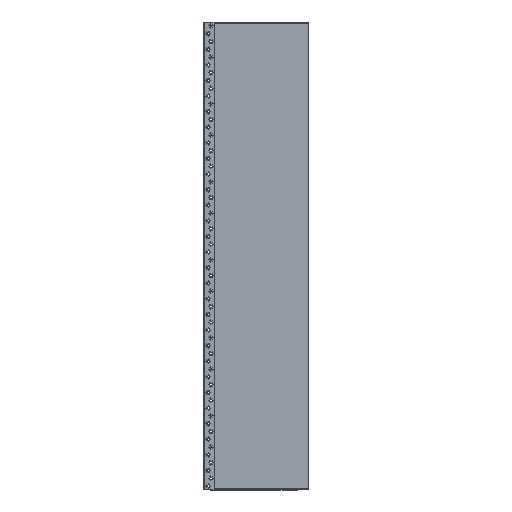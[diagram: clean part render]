
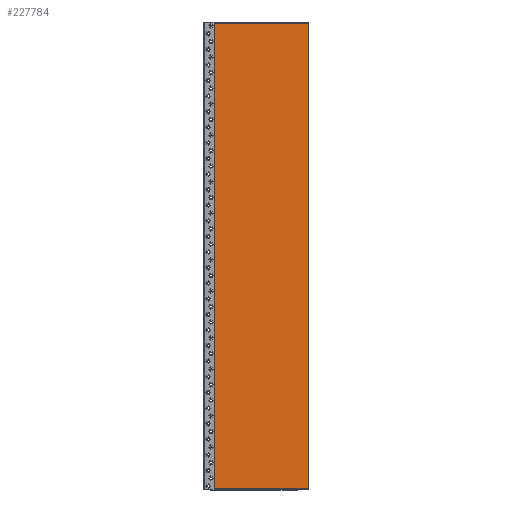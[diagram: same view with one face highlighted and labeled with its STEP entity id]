
A CAD part, top view. The second image highlights one B-rep face of the part: STEP entity #227784.
In plain terms, the highlighted planar face has unit normal (0, 0, 1).
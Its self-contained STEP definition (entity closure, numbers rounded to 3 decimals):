
#227470 = VERTEX_POINT('',#227471);
#227471 = CARTESIAN_POINT('',(10756.924,3003.,
    0.));
#227478 = PLANE('',#227479);
#227479 = AXIS2_PLACEMENT_3D('',#227480,#227481,#227482);
#227480 = CARTESIAN_POINT('',(10756.924,3003.,
    -25.));
#227481 = DIRECTION('',(0.,1.,0.));
#227482 = DIRECTION('',(1.,0.,0.));
#227490 = PLANE('',#227491);
#227491 = AXIS2_PLACEMENT_3D('',#227492,#227493,#227494);
#227492 = CARTESIAN_POINT('',(10756.924,4197.,
    -25.));
#227493 = DIRECTION('',(1.,0.,0.));
#227494 = DIRECTION('',(0.,-1.,0.));
#227502 = EDGE_CURVE('',#227470,#227503,#227505,.T.);
#227503 = VERTEX_POINT('',#227504);
#227504 = CARTESIAN_POINT('',(10998.424,3003.,
    0.));
#227505 = SURFACE_CURVE('',#227506,(#227510,#227517),.PCURVE_S1.);
#227506 = LINE('',#227507,#227508);
#227507 = CARTESIAN_POINT('',(10756.924,3003.,
    0.));
#227508 = VECTOR('',#227509,1.);
#227509 = DIRECTION('',(1.,0.,0.));
#227510 = PCURVE('',#227478,#227511);
#227511 = DEFINITIONAL_REPRESENTATION('',(#227512),#227516);
#227512 = LINE('',#227513,#227514);
#227513 = CARTESIAN_POINT('',(0.,-25.));
#227514 = VECTOR('',#227515,1.);
#227515 = DIRECTION('',(1.,0.));
#227516 = ( GEOMETRIC_REPRESENTATION_CONTEXT(2) 
PARAMETRIC_REPRESENTATION_CONTEXT() REPRESENTATION_CONTEXT('2D SPACE',''
  ) );
#227517 = PCURVE('',#227518,#227523);
#227518 = PLANE('',#227519);
#227519 = AXIS2_PLACEMENT_3D('',#227520,#227521,#227522);
#227520 = CARTESIAN_POINT('',(10877.674,3600.,
    0.));
#227521 = DIRECTION('',(0.,0.,1.));
#227522 = DIRECTION('',(1.,0.,0.));
#227523 = DEFINITIONAL_REPRESENTATION('',(#227524),#227528);
#227524 = LINE('',#227525,#227526);
#227525 = CARTESIAN_POINT('',(-120.75,-597.));
#227526 = VECTOR('',#227527,1.);
#227527 = DIRECTION('',(1.,0.));
#227528 = ( GEOMETRIC_REPRESENTATION_CONTEXT(2) 
PARAMETRIC_REPRESENTATION_CONTEXT() REPRESENTATION_CONTEXT('2D SPACE',''
  ) );
#227546 = PLANE('',#227547);
#227547 = AXIS2_PLACEMENT_3D('',#227548,#227549,#227550);
#227548 = CARTESIAN_POINT('',(10998.424,3003.,
    -25.));
#227549 = DIRECTION('',(-1.,0.,0.));
#227550 = DIRECTION('',(0.,1.,0.));
#227588 = EDGE_CURVE('',#227503,#227589,#227591,.T.);
#227589 = VERTEX_POINT('',#227590);
#227590 = CARTESIAN_POINT('',(10998.424,4197.,
    0.));
#227591 = SURFACE_CURVE('',#227592,(#227596,#227603),.PCURVE_S1.);
#227592 = LINE('',#227593,#227594);
#227593 = CARTESIAN_POINT('',(10998.424,3003.,
    0.));
#227594 = VECTOR('',#227595,1.);
#227595 = DIRECTION('',(0.,1.,0.));
#227596 = PCURVE('',#227546,#227597);
#227597 = DEFINITIONAL_REPRESENTATION('',(#227598),#227602);
#227598 = LINE('',#227599,#227600);
#227599 = CARTESIAN_POINT('',(0.,-25.));
#227600 = VECTOR('',#227601,1.);
#227601 = DIRECTION('',(1.,0.));
#227602 = ( GEOMETRIC_REPRESENTATION_CONTEXT(2) 
PARAMETRIC_REPRESENTATION_CONTEXT() REPRESENTATION_CONTEXT('2D SPACE',''
  ) );
#227603 = PCURVE('',#227518,#227604);
#227604 = DEFINITIONAL_REPRESENTATION('',(#227605),#227609);
#227605 = LINE('',#227606,#227607);
#227606 = CARTESIAN_POINT('',(120.75,-597.));
#227607 = VECTOR('',#227608,1.);
#227608 = DIRECTION('',(0.,1.));
#227609 = ( GEOMETRIC_REPRESENTATION_CONTEXT(2) 
PARAMETRIC_REPRESENTATION_CONTEXT() REPRESENTATION_CONTEXT('2D SPACE',''
  ) );
#227627 = PLANE('',#227628);
#227628 = AXIS2_PLACEMENT_3D('',#227629,#227630,#227631);
#227629 = CARTESIAN_POINT('',(10998.424,4197.,
    -25.));
#227630 = DIRECTION('',(0.,-1.,0.));
#227631 = DIRECTION('',(-1.,0.,0.));
#227664 = EDGE_CURVE('',#227589,#227665,#227667,.T.);
#227665 = VERTEX_POINT('',#227666);
#227666 = CARTESIAN_POINT('',(10756.924,4197.,
    0.));
#227667 = SURFACE_CURVE('',#227668,(#227672,#227679),.PCURVE_S1.);
#227668 = LINE('',#227669,#227670);
#227669 = CARTESIAN_POINT('',(10998.424,4197.,
    0.));
#227670 = VECTOR('',#227671,1.);
#227671 = DIRECTION('',(-1.,0.,0.));
#227672 = PCURVE('',#227627,#227673);
#227673 = DEFINITIONAL_REPRESENTATION('',(#227674),#227678);
#227674 = LINE('',#227675,#227676);
#227675 = CARTESIAN_POINT('',(0.,-25.));
#227676 = VECTOR('',#227677,1.);
#227677 = DIRECTION('',(1.,0.));
#227678 = ( GEOMETRIC_REPRESENTATION_CONTEXT(2) 
PARAMETRIC_REPRESENTATION_CONTEXT() REPRESENTATION_CONTEXT('2D SPACE',''
  ) );
#227679 = PCURVE('',#227518,#227680);
#227680 = DEFINITIONAL_REPRESENTATION('',(#227681),#227685);
#227681 = LINE('',#227682,#227683);
#227682 = CARTESIAN_POINT('',(120.75,597.));
#227683 = VECTOR('',#227684,1.);
#227684 = DIRECTION('',(-1.,0.));
#227685 = ( GEOMETRIC_REPRESENTATION_CONTEXT(2) 
PARAMETRIC_REPRESENTATION_CONTEXT() REPRESENTATION_CONTEXT('2D SPACE',''
  ) );
#227735 = EDGE_CURVE('',#227665,#227470,#227736,.T.);
#227736 = SURFACE_CURVE('',#227737,(#227741,#227748),.PCURVE_S1.);
#227737 = LINE('',#227738,#227739);
#227738 = CARTESIAN_POINT('',(10756.924,4197.,
    0.));
#227739 = VECTOR('',#227740,1.);
#227740 = DIRECTION('',(0.,-1.,0.));
#227741 = PCURVE('',#227490,#227742);
#227742 = DEFINITIONAL_REPRESENTATION('',(#227743),#227747);
#227743 = LINE('',#227744,#227745);
#227744 = CARTESIAN_POINT('',(0.,-25.));
#227745 = VECTOR('',#227746,1.);
#227746 = DIRECTION('',(1.,0.));
#227747 = ( GEOMETRIC_REPRESENTATION_CONTEXT(2) 
PARAMETRIC_REPRESENTATION_CONTEXT() REPRESENTATION_CONTEXT('2D SPACE',''
  ) );
#227748 = PCURVE('',#227518,#227749);
#227749 = DEFINITIONAL_REPRESENTATION('',(#227750),#227754);
#227750 = LINE('',#227751,#227752);
#227751 = CARTESIAN_POINT('',(-120.75,597.));
#227752 = VECTOR('',#227753,1.);
#227753 = DIRECTION('',(0.,-1.));
#227754 = ( GEOMETRIC_REPRESENTATION_CONTEXT(2) 
PARAMETRIC_REPRESENTATION_CONTEXT() REPRESENTATION_CONTEXT('2D SPACE',''
  ) );
#227784 = ADVANCED_FACE('',(#227785),#227518,.T.);
#227785 = FACE_BOUND('',#227786,.T.);
#227786 = EDGE_LOOP('',(#227787,#227788,#227789,#227790));
#227787 = ORIENTED_EDGE('',*,*,#227502,.T.);
#227788 = ORIENTED_EDGE('',*,*,#227588,.T.);
#227789 = ORIENTED_EDGE('',*,*,#227664,.T.);
#227790 = ORIENTED_EDGE('',*,*,#227735,.T.);
